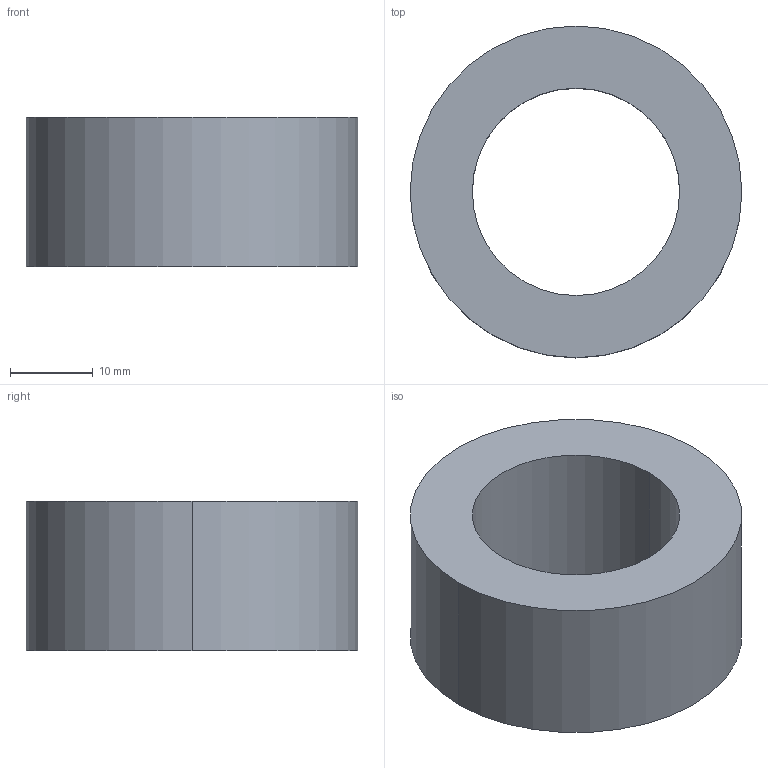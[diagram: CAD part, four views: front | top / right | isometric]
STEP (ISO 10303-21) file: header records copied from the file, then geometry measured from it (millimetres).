
FILE_DESCRIPTION (( 'STEP AP214' ), '1' );
FILE_NAME ('Distanzscheibe2.STEP', '2016-12-28T08:46:35', ( '' ), ( '' ), 'SwSTEP 2.0', 'SolidWorks 2016', '' );
FILE_SCHEMA (( 'AUTOMOTIVE_DESIGN' ));
Length unit declared in the file: millimetre
Products named in the file (1): Distanzscheibe2
Bounding box: 40 x 40 x 18 mm (x, y, z)
Volume: 13783.7 mm3; surface area: 5207.2 mm2
Topology: 1 solids, 1 shells, 6 faces, 12 edges, 8 vertices
Faces by surface type: cylinder 4, plane 2
Entity records: 202 total; most frequent: DIRECTION 34, CARTESIAN_POINT 27, ORIENTED_EDGE 24, AXIS2_PLACEMENT_3D 15, EDGE_CURVE 12, CIRCLE 8, VERTEX_POINT 8, EDGE_LOOP 8
